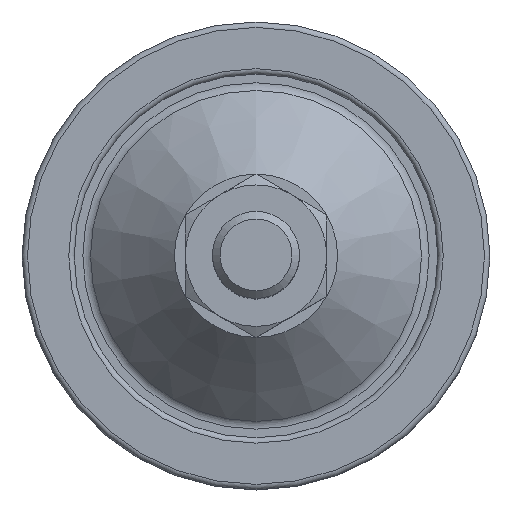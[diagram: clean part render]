
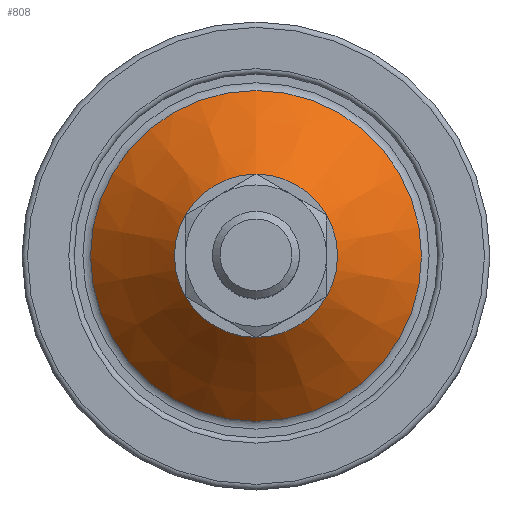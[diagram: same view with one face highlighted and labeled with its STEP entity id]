
A CAD part, top view. The second image highlights one B-rep face of the part: STEP entity #808.
In plain terms, the highlighted conical face has half-angle 45 degrees and reference radius 11.293 mm.
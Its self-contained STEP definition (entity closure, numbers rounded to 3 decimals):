
#114=CONICAL_SURFACE('',#911,11.293,45.);
#133=FACE_BOUND('',#287,.T.);
#202=FACE_OUTER_BOUND('',#286,.T.);
#286=EDGE_LOOP('',(#693));
#287=EDGE_LOOP('',(#694));
#382=CIRCLE('',#912,15.207);
#383=CIRCLE('',#913,7.379);
#455=VERTEX_POINT('',#1433);
#456=VERTEX_POINT('',#1435);
#546=EDGE_CURVE('',#455,#455,#382,.T.);
#547=EDGE_CURVE('',#456,#456,#383,.T.);
#693=ORIENTED_EDGE('',*,*,#546,.T.);
#694=ORIENTED_EDGE('',*,*,#547,.F.);
#808=ADVANCED_FACE('',(#202,#133),#114,.T.);
#911=AXIS2_PLACEMENT_3D('',#1432,#1112,#1113);
#912=AXIS2_PLACEMENT_3D('',#1434,#1114,#1115);
#913=AXIS2_PLACEMENT_3D('',#1436,#1116,#1117);
#1112=DIRECTION('center_axis',(0.,0.,-1.));
#1113=DIRECTION('ref_axis',(-1.,0.,0.));
#1114=DIRECTION('center_axis',(0.,0.,1.));
#1115=DIRECTION('ref_axis',(-1.,0.,0.));
#1116=DIRECTION('center_axis',(0.,0.,1.));
#1117=DIRECTION('ref_axis',(-1.,0.,0.));
#1432=CARTESIAN_POINT('Origin',(-1.009,0.458,-28.543));
#1433=CARTESIAN_POINT('',(-1.009,15.665,-32.457));
#1434=CARTESIAN_POINT('Origin',(-1.009,0.458,-32.457));
#1435=CARTESIAN_POINT('',(-1.009,7.837,-24.629));
#1436=CARTESIAN_POINT('Origin',(-1.009,0.458,-24.629));
